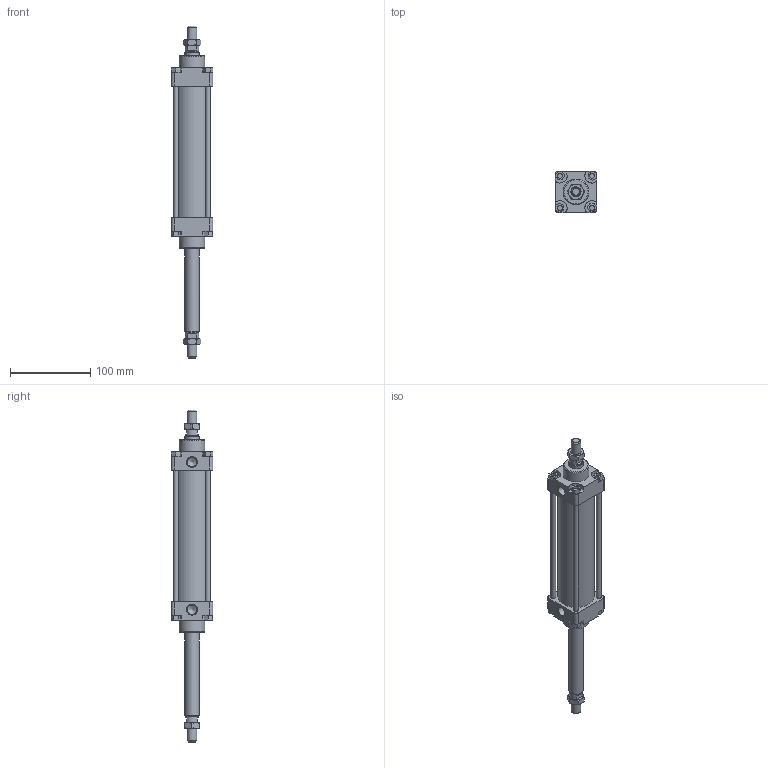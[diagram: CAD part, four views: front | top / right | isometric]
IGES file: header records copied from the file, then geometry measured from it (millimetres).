
Global section: file name: 130#_040_0100_02A; native system: Autodesk Inventor 2014; preprocessor: unknown; author: A. Manieri; date: 20161123.143729; units: millimetre
Bounding box: 52 x 52 x 414 mm (x, y, z)
Volume: 352992.6 mm3; surface area: 120535.2 mm2
Topology: 10 solids, 10 shells, 187 faces, 467 edges, 314 vertices
Faces by surface type: bspline 187
